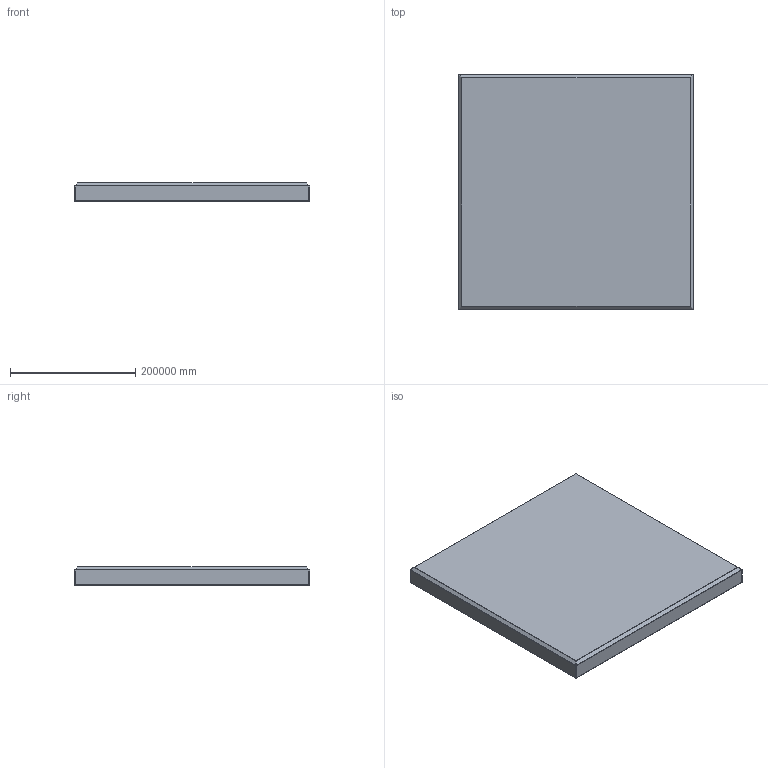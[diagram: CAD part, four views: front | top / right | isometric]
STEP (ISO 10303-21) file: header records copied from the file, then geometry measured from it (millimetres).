
FILE_DESCRIPTION(/* description */ (''),/* implementation_level */ '2;1');
FILE_NAME(/* name */ 'FLUFFO_SOFT_PIXEL_EDGE_M_30mm',/* time_stamp */ '2018-04-17T23:20:00+02:00',/* author */ (''),/* organization */ (''),/* preprocessor_version */ 'ST-DEVELOPER v15',/* originating_system */ '',/* authorisation */ '');
FILE_SCHEMA (('AUTOMOTIVE_DESIGN'));
Length unit declared in the file: metre
Products named in the file (1): Document
Bounding box: 375000 x 375000 x 30000 mm (x, y, z)
Volume: 4199758438652040.5 mm3; surface area: 320996029604.5 mm2
Topology: 1 solids, 1 shells, 42 faces, 81 edges, 41 vertices
Faces by surface type: bspline 32, plane 10
Entity records: 1021 total; most frequent: CARTESIAN_POINT 520, ORIENTED_EDGE 160, EDGE_CURVE 80, ADVANCED_FACE 42, FACE_OUTER_BOUND 42, EDGE_LOOP 42, VERTEX_POINT 40, B_SPLINE_CURVE_WITH_KNOTS 33
